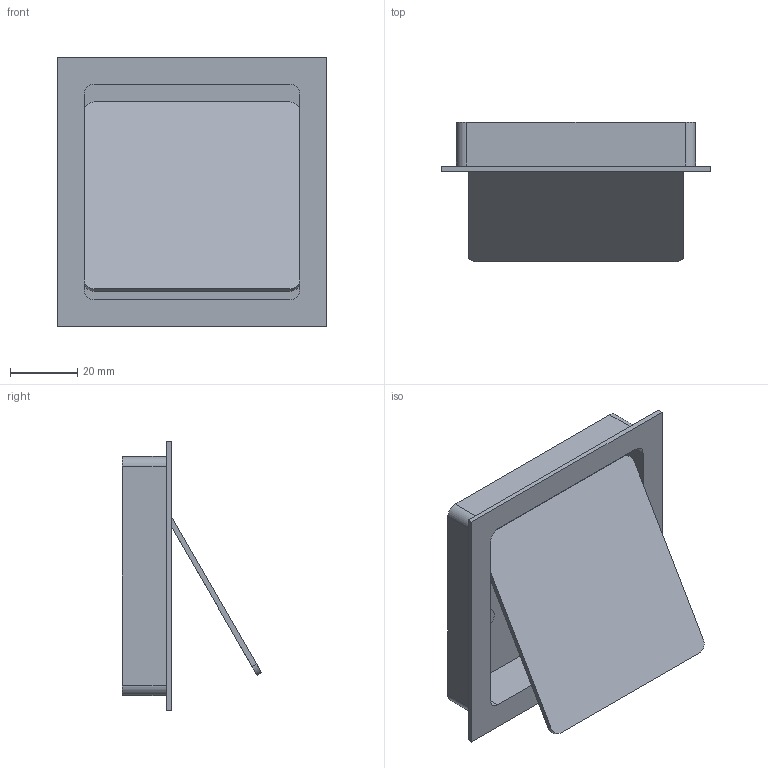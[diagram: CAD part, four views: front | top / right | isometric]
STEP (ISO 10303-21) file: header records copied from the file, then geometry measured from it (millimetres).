
FILE_DESCRIPTION( ( 'STEP AP203' ), '1' );
FILE_NAME( 'D:/1.AUTOCAD EXPORT/3. YEAR 2015/11. ProDecor_Handles/Sheet_correction/115129.stp', ' ', ( ' ' ), ( ' ' ), 'PSStep 15.0.47', 'PARTsolutions', ' ' );
FILE_SCHEMA( ( 'CONFIG_CONTROL_DESIGN' ) );
Length unit declared in the file: millimetre
Products named in the file (1): HI_115129
Bounding box: 80 x 41.3 x 80 mm (x, y, z)
Volume: 28141.5 mm3; surface area: 28946.5 mm2
Topology: 1 solids, 1 shells, 42 faces, 110 edges, 72 vertices
Faces by surface type: plane 26, cylinder 16
Full cylindrical faces by diameter (mm): 4 x2
Entity records: 1332 total; most frequent: DIRECTION 226, CARTESIAN_POINT 223, ORIENTED_EDGE 216, EDGE_CURVE 108, LINE 76, VECTOR 76, AXIS2_PLACEMENT_3D 75, VERTEX_POINT 72
